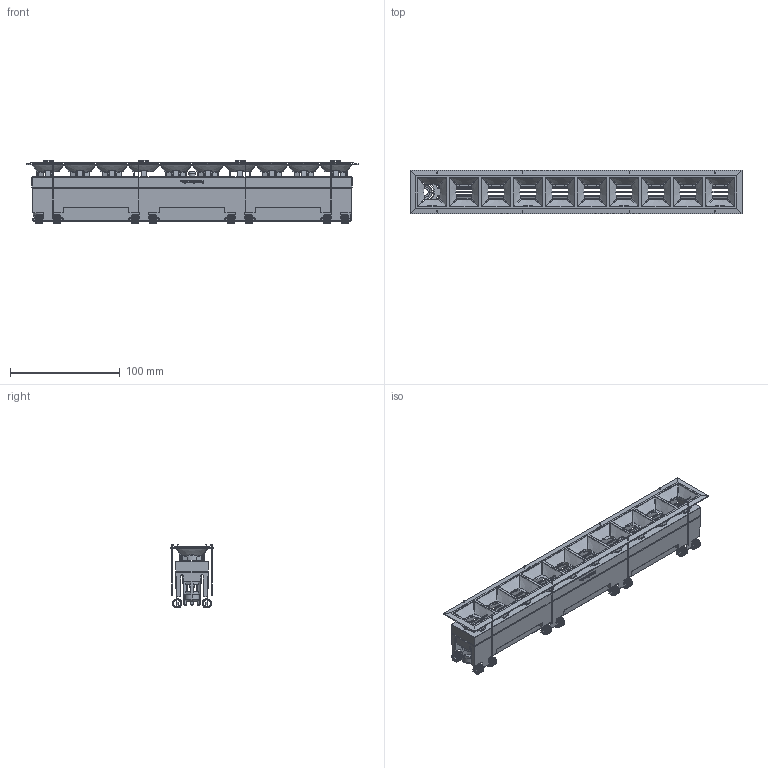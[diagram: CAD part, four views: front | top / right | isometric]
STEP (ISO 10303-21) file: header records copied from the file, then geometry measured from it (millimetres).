
FILE_DESCRIPTION((''),'2;1');
FILE_NAME('KURA_X10','2025-07-31T09:04:18',('Piccioli'),(''),'CREO PARAMETRIC BY PTC INC, 2025010','CREO PARAMETRIC BY PTC INC, 2025010','');
FILE_SCHEMA(('CONFIG_CONTROL_DESIGN'));
Products named in the file (1): KURA_X10
Bounding box: 301.9 x 40 x 58.14 mm (x, y, z)
Surface area: 91479.6 mm2 (no closed solid volume)
Topology: 0 solids, 315 shells, 565 faces, 4215 edges, 3934 vertices
Faces by surface type: bspline 237, cylinder 160, plane 140, torus 12, cone 10, sphere 6
Entity records: 102926 total; most frequent: CARTESIAN_POINT 79513, ORIENTED_EDGE 4538, EDGE_CURVE 4212, VERTEX_POINT 3934, B_SPLINE_CURVE_WITH_KNOTS 2885, DIRECTION 2197, VECTOR 1113, LINE 1113
